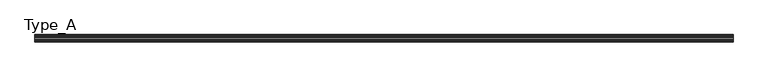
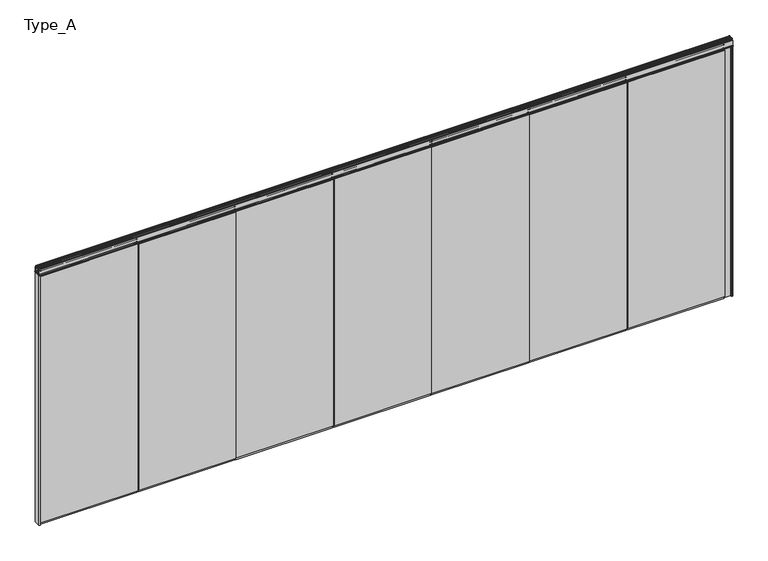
"""IFC4 building model written with IfcOpenShell, lengths in millimetres: proxy geometry, Planner Wall フラッシュパネル(NO Door) : Type_A."""

from ifc_helpers import new_model, si_unit, point, frame, frame_2d, origin, origin_with_axes, place, context, project, spatial, polyline, circle_curve, trimmed, segment, composite_curve, outline, extrude, source, transform, mapped, element, save


def type_a_feeafe0a(model_context):
    return source(origin(), model_context, "Body", "SweptSolid", [
        extrude(outline(polyline([(-625.0714286, 25.0), (-1723.5, 25.0), (-1723.5, 35.0), (-625.0714286, 35.0), (-625.0714286, 25.0)])), frame((0.0, 0.0, 25.0), z_axis=(0.0, 0.0, 1.0), x_axis=(1.0, 0.0, 0.0)), (0.0, 0.0, 1.0), 2950.0),
        extrude(outline(polyline([(-625.0714286, -35.0), (-1723.5, -35.0), (-1723.5, -25.0), (-625.0714286, -25.0), (-625.0714286, -35.0)])), frame((0.0, 0.0, 25.0), z_axis=(0.0, 0.0, 1.0), x_axis=(1.0, 0.0, 0.0)), (0.0, 0.0, 1.0), 2950.0),
        extrude(outline(polyline([(-1723.5, -25.0), (-1723.5, 25.0), (-630.5714286, 25.0), (-630.5714286, -25.0), (-1723.5, -25.0)])), origin_with_axes(), (0.0, 0.0, 1.0), 65.0),
        extrude(outline(composite_curve([segment(polyline([(23.5, 3050.1000003), (26.5, 3047.1000003), (26.5, 3032.6)]), True, "CONTINUOUS"), segment(trimmed(circle_curve(frame_2d((25.0, 3032.6)), 1.5), [point((26.5, 3032.6))], [point((25.0, 3031.1))], False, "CARTESIAN"), True, "CONTINUOUS"), segment(polyline([(25.0, 3031.1), (9.0, 3031.1), (9.0, 3019.1000003), (23.5, 3019.1000003), (26.5, 3016.1000003), (26.5, 3001.5)]), True, "CONTINUOUS"), segment(trimmed(circle_curve(frame_2d((25.0, 3001.5)), 1.5), [point((26.5, 3001.5))], [point((25.0, 3000.0))], False, "CARTESIAN"), True, "CONTINUOUS"), segment(polyline([(25.0, 3000.0), (7.5, 3000.0), (7.5, 2994.5), (25.0, 2994.5), (25.0, 2935.0), (-25.0, 2935.0), (-25.0, 2994.5), (-7.5, 2994.5), (-7.5, 3000.0), (-25.0, 3000.0)]), True, "CONTINUOUS"), segment(trimmed(circle_curve(frame_2d((-25.0, 3001.5)), 1.5), [point((-25.0, 3000.0))], [point((-26.5, 3001.5))], False, "CARTESIAN"), True, "CONTINUOUS"), segment(polyline([(-26.5, 3001.5), (-26.5, 3016.1000003), (-23.5, 3019.1000003), (-9.0, 3019.1000003), (-9.0, 3031.1), (-25.0, 3031.1)]), True, "CONTINUOUS"), segment(trimmed(circle_curve(frame_2d((-25.0, 3032.6)), 1.5), [point((-25.0, 3031.1))], [point((-26.5, 3032.6))], False, "CARTESIAN"), True, "CONTINUOUS"), segment(polyline([(-26.5, 3032.6), (-26.5, 3047.1000003), (-23.5, 3050.1000003), (23.5, 3050.1000003)]), True, "CONTINUOUS")], self_intersect=False)), frame((-1723.5, 0.0, 0.0), z_axis=(1.0, 0.0, 0.0), x_axis=(0.0, 1.0, 0.0)), (0.0, 0.0, 1.0), 1098.4285714),
        extrude(outline(polyline([(-1737.0, -25.0), (-1737.0, 25.0), (-1723.5, 25.0), (-1723.5, -25.0), (-1737.0, -25.0)])), frame((0.0, 0.0, 53.0), z_axis=(0.0, 0.0, 1.0), x_axis=(1.0, 0.0, 0.0)), (0.0, 0.0, 1.0), 2869.0),
        extrude(outline(polyline([(481.3571429, 25.0), (-617.0714286, 25.0), (-617.0714286, 35.0), (481.3571429, 35.0), (481.3571429, 25.0)])), frame((0.0, 0.0, 25.0), z_axis=(0.0, 0.0, 1.0), x_axis=(1.0, 0.0, 0.0)), (0.0, 0.0, 1.0), 2950.0),
        extrude(outline(polyline([(481.3571429, -35.0), (-617.0714286, -35.0), (-617.0714286, -25.0), (481.3571429, -25.0), (481.3571429, -35.0)])), frame((0.0, 0.0, 25.0), z_axis=(0.0, 0.0, 1.0), x_axis=(1.0, 0.0, 0.0)), (0.0, 0.0, 1.0), 2950.0),
        extrude(outline(polyline([(-617.0714286, -25.0), (-617.0714286, 25.0), (475.8571429, 25.0), (475.8571429, -25.0), (-617.0714286, -25.0)])), origin_with_axes(), (0.0, 0.0, 1.0), 65.0),
        extrude(outline(composite_curve([segment(polyline([(23.5, 3050.1000003), (26.5, 3047.1000003), (26.5, 3032.6)]), True, "CONTINUOUS"), segment(trimmed(circle_curve(frame_2d((25.0, 3032.6)), 1.5), [point((26.5, 3032.6))], [point((25.0, 3031.1))], False, "CARTESIAN"), True, "CONTINUOUS"), segment(polyline([(25.0, 3031.1), (9.0, 3031.1), (9.0, 3019.1000003), (23.5, 3019.1000003), (26.5, 3016.1000003), (26.5, 3001.5)]), True, "CONTINUOUS"), segment(trimmed(circle_curve(frame_2d((25.0, 3001.5)), 1.5), [point((26.5, 3001.5))], [point((25.0, 3000.0))], False, "CARTESIAN"), True, "CONTINUOUS"), segment(polyline([(25.0, 3000.0), (7.5, 3000.0), (7.5, 2994.5), (25.0, 2994.5), (25.0, 2935.0), (-25.0, 2935.0), (-25.0, 2994.5), (-7.5, 2994.5), (-7.5, 3000.0), (-25.0, 3000.0)]), True, "CONTINUOUS"), segment(trimmed(circle_curve(frame_2d((-25.0, 3001.5)), 1.5), [point((-25.0, 3000.0))], [point((-26.5, 3001.5))], False, "CARTESIAN"), True, "CONTINUOUS"), segment(polyline([(-26.5, 3001.5), (-26.5, 3016.1000003), (-23.5, 3019.1000003), (-9.0, 3019.1000003), (-9.0, 3031.1), (-25.0, 3031.1)]), True, "CONTINUOUS"), segment(trimmed(circle_curve(frame_2d((-25.0, 3032.6)), 1.5), [point((-25.0, 3031.1))], [point((-26.5, 3032.6))], False, "CARTESIAN"), True, "CONTINUOUS"), segment(polyline([(-26.5, 3032.6), (-26.5, 3047.1000003), (-23.5, 3050.1000003), (23.5, 3050.1000003)]), True, "CONTINUOUS")], self_intersect=False)), frame((-617.0714286, 0.0, 0.0), z_axis=(1.0, 0.0, 0.0), x_axis=(0.0, 1.0, 0.0)), (0.0, 0.0, 1.0), 1098.4285714),
        extrude(outline(polyline([(-630.5714286, -25.0), (-630.5714286, 25.0), (-617.0714286, 25.0), (-617.0714286, -25.0), (-630.5714286, -25.0)])), frame((0.0, 0.0, 53.0), z_axis=(0.0, 0.0, 1.0), x_axis=(1.0, 0.0, 0.0)), (0.0, 0.0, 1.0), 2869.0),
        extrude(outline(polyline([(1587.7857143, 25.0), (489.3571429, 25.0), (489.3571429, 35.0), (1587.7857143, 35.0), (1587.7857143, 25.0)])), frame((0.0, 0.0, 25.0), z_axis=(0.0, 0.0, 1.0), x_axis=(1.0, 0.0, 0.0)), (0.0, 0.0, 1.0), 2950.0),
        extrude(outline(polyline([(1587.7857143, -35.0), (489.3571429, -35.0), (489.3571429, -25.0), (1587.7857143, -25.0), (1587.7857143, -35.0)])), frame((0.0, 0.0, 25.0), z_axis=(0.0, 0.0, 1.0), x_axis=(1.0, 0.0, 0.0)), (0.0, 0.0, 1.0), 2950.0),
        extrude(outline(polyline([(489.3571429, -25.0), (489.3571429, 25.0), (1582.2857143, 25.0), (1582.2857143, -25.0), (489.3571429, -25.0)])), origin_with_axes(), (0.0, 0.0, 1.0), 65.0),
        extrude(outline(composite_curve([segment(polyline([(23.5, 3050.1000003), (26.5, 3047.1000003), (26.5, 3032.6)]), True, "CONTINUOUS"), segment(trimmed(circle_curve(frame_2d((25.0, 3032.6)), 1.5), [point((26.5, 3032.6))], [point((25.0, 3031.1))], False, "CARTESIAN"), True, "CONTINUOUS"), segment(polyline([(25.0, 3031.1), (9.0, 3031.1), (9.0, 3019.1000003), (23.5, 3019.1000003), (26.5, 3016.1000003), (26.5, 3001.5)]), True, "CONTINUOUS"), segment(trimmed(circle_curve(frame_2d((25.0, 3001.5)), 1.5), [point((26.5, 3001.5))], [point((25.0, 3000.0))], False, "CARTESIAN"), True, "CONTINUOUS"), segment(polyline([(25.0, 3000.0), (7.5, 3000.0), (7.5, 2994.5), (25.0, 2994.5), (25.0, 2935.0), (-25.0, 2935.0), (-25.0, 2994.5), (-7.5, 2994.5), (-7.5, 3000.0), (-25.0, 3000.0)]), True, "CONTINUOUS"), segment(trimmed(circle_curve(frame_2d((-25.0, 3001.5)), 1.5), [point((-25.0, 3000.0))], [point((-26.5, 3001.5))], False, "CARTESIAN"), True, "CONTINUOUS"), segment(polyline([(-26.5, 3001.5), (-26.5, 3016.1000003), (-23.5, 3019.1000003), (-9.0, 3019.1000003), (-9.0, 3031.1), (-25.0, 3031.1)]), True, "CONTINUOUS"), segment(trimmed(circle_curve(frame_2d((-25.0, 3032.6)), 1.5), [point((-25.0, 3031.1))], [point((-26.5, 3032.6))], False, "CARTESIAN"), True, "CONTINUOUS"), segment(polyline([(-26.5, 3032.6), (-26.5, 3047.1000003), (-23.5, 3050.1000003), (23.5, 3050.1000003)]), True, "CONTINUOUS")], self_intersect=False)), frame((489.3571429, 0.0, 0.0), z_axis=(1.0, 0.0, 0.0), x_axis=(0.0, 1.0, 0.0)), (0.0, 0.0, 1.0), 1098.4285714),
        extrude(outline(polyline([(475.8571429, -25.0), (475.8571429, 25.0), (489.3571429, 25.0), (489.3571429, -25.0), (475.8571429, -25.0)])), frame((0.0, 0.0, 53.0), z_axis=(0.0, 0.0, 1.0), x_axis=(1.0, 0.0, 0.0)), (0.0, 0.0, 1.0), 2869.0),
        extrude(outline(polyline([(2694.2142857, 25.0), (1595.7857143, 25.0), (1595.7857143, 35.0), (2694.2142857, 35.0), (2694.2142857, 25.0)])), frame((0.0, 0.0, 25.0), z_axis=(0.0, 0.0, 1.0), x_axis=(1.0, 0.0, 0.0)), (0.0, 0.0, 1.0), 2950.0),
        extrude(outline(polyline([(2694.2142857, -35.0), (1595.7857143, -35.0), (1595.7857143, -25.0), (2694.2142857, -25.0), (2694.2142857, -35.0)])), frame((0.0, 0.0, 25.0), z_axis=(0.0, 0.0, 1.0), x_axis=(1.0, 0.0, 0.0)), (0.0, 0.0, 1.0), 2950.0),
        extrude(outline(polyline([(1595.7857143, -25.0), (1595.7857143, 25.0), (2688.7142857, 25.0), (2688.7142857, -25.0), (1595.7857143, -25.0)])), origin_with_axes(), (0.0, 0.0, 1.0), 65.0),
        extrude(outline(composite_curve([segment(polyline([(23.5, 3050.1000003), (26.5, 3047.1000003), (26.5, 3032.6)]), True, "CONTINUOUS"), segment(trimmed(circle_curve(frame_2d((25.0, 3032.6)), 1.5), [point((26.5, 3032.6))], [point((25.0, 3031.1))], False, "CARTESIAN"), True, "CONTINUOUS"), segment(polyline([(25.0, 3031.1), (9.0, 3031.1), (9.0, 3019.1000003), (23.5, 3019.1000003), (26.5, 3016.1000003), (26.5, 3001.5)]), True, "CONTINUOUS"), segment(trimmed(circle_curve(frame_2d((25.0, 3001.5)), 1.5), [point((26.5, 3001.5))], [point((25.0, 3000.0))], False, "CARTESIAN"), True, "CONTINUOUS"), segment(polyline([(25.0, 3000.0), (7.5, 3000.0), (7.5, 2994.5), (25.0, 2994.5), (25.0, 2935.0), (-25.0, 2935.0), (-25.0, 2994.5), (-7.5, 2994.5), (-7.5, 3000.0), (-25.0, 3000.0)]), True, "CONTINUOUS"), segment(trimmed(circle_curve(frame_2d((-25.0, 3001.5)), 1.5), [point((-25.0, 3000.0))], [point((-26.5, 3001.5))], False, "CARTESIAN"), True, "CONTINUOUS"), segment(polyline([(-26.5, 3001.5), (-26.5, 3016.1000003), (-23.5, 3019.1000003), (-9.0, 3019.1000003), (-9.0, 3031.1), (-25.0, 3031.1)]), True, "CONTINUOUS"), segment(trimmed(circle_curve(frame_2d((-25.0, 3032.6)), 1.5), [point((-25.0, 3031.1))], [point((-26.5, 3032.6))], False, "CARTESIAN"), True, "CONTINUOUS"), segment(polyline([(-26.5, 3032.6), (-26.5, 3047.1000003), (-23.5, 3050.1000003), (23.5, 3050.1000003)]), True, "CONTINUOUS")], self_intersect=False)), frame((1595.7857143, 0.0, 0.0), z_axis=(1.0, 0.0, 0.0), x_axis=(0.0, 1.0, 0.0)), (0.0, 0.0, 1.0), 1098.4285714),
        extrude(outline(polyline([(1582.2857143, -25.0), (1582.2857143, 25.0), (1595.7857143, 25.0), (1595.7857143, -25.0), (1582.2857143, -25.0)])), frame((0.0, 0.0, 53.0), z_axis=(0.0, 0.0, 1.0), x_axis=(1.0, 0.0, 0.0)), (0.0, 0.0, 1.0), 2869.0),
        extrude(outline(polyline([(3800.6428571, 25.0), (2702.2142857, 25.0), (2702.2142857, 35.0), (3800.6428571, 35.0), (3800.6428571, 25.0)])), frame((0.0, 0.0, 25.0), z_axis=(0.0, 0.0, 1.0), x_axis=(1.0, 0.0, 0.0)), (0.0, 0.0, 1.0), 2950.0),
        extrude(outline(polyline([(3800.6428571, -35.0), (2702.2142857, -35.0), (2702.2142857, -25.0), (3800.6428571, -25.0), (3800.6428571, -35.0)])), frame((0.0, 0.0, 25.0), z_axis=(0.0, 0.0, 1.0), x_axis=(1.0, 0.0, 0.0)), (0.0, 0.0, 1.0), 2950.0),
        extrude(outline(polyline([(2702.2142857, -25.0), (2702.2142857, 25.0), (3795.1428571, 25.0), (3795.1428571, -25.0), (2702.2142857, -25.0)])), origin_with_axes(), (0.0, 0.0, 1.0), 65.0),
        extrude(outline(composite_curve([segment(polyline([(23.5, 3050.1000003), (26.5, 3047.1000003), (26.5, 3032.6)]), True, "CONTINUOUS"), segment(trimmed(circle_curve(frame_2d((25.0, 3032.6)), 1.5), [point((26.5, 3032.6))], [point((25.0, 3031.1))], False, "CARTESIAN"), True, "CONTINUOUS"), segment(polyline([(25.0, 3031.1), (9.0, 3031.1), (9.0, 3019.1000003), (23.5, 3019.1000003), (26.5, 3016.1000003), (26.5, 3001.5)]), True, "CONTINUOUS"), segment(trimmed(circle_curve(frame_2d((25.0, 3001.5)), 1.5), [point((26.5, 3001.5))], [point((25.0, 3000.0))], False, "CARTESIAN"), True, "CONTINUOUS"), segment(polyline([(25.0, 3000.0), (7.5, 3000.0), (7.5, 2994.5), (25.0, 2994.5), (25.0, 2935.0), (-25.0, 2935.0), (-25.0, 2994.5), (-7.5, 2994.5), (-7.5, 3000.0), (-25.0, 3000.0)]), True, "CONTINUOUS"), segment(trimmed(circle_curve(frame_2d((-25.0, 3001.5)), 1.5), [point((-25.0, 3000.0))], [point((-26.5, 3001.5))], False, "CARTESIAN"), True, "CONTINUOUS"), segment(polyline([(-26.5, 3001.5), (-26.5, 3016.1000003), (-23.5, 3019.1000003), (-9.0, 3019.1000003), (-9.0, 3031.1), (-25.0, 3031.1)]), True, "CONTINUOUS"), segment(trimmed(circle_curve(frame_2d((-25.0, 3032.6)), 1.5), [point((-25.0, 3031.1))], [point((-26.5, 3032.6))], False, "CARTESIAN"), True, "CONTINUOUS"), segment(polyline([(-26.5, 3032.6), (-26.5, 3047.1000003), (-23.5, 3050.1000003), (23.5, 3050.1000003)]), True, "CONTINUOUS")], self_intersect=False)), frame((2702.2142857, 0.0, 0.0), z_axis=(1.0, 0.0, 0.0), x_axis=(0.0, 1.0, 0.0)), (0.0, 0.0, 1.0), 1098.4285714),
        extrude(outline(polyline([(2688.7142857, -25.0), (2688.7142857, 25.0), (2702.2142857, 25.0), (2702.2142857, -25.0), (2688.7142857, -25.0)])), frame((0.0, 0.0, 53.0), z_axis=(0.0, 0.0, 1.0), x_axis=(1.0, 0.0, 0.0)), (0.0, 0.0, 1.0), 2869.0),
        extrude(outline(polyline([(4907.0714286, 25.0), (3808.6428571, 25.0), (3808.6428571, 35.0), (4907.0714286, 35.0), (4907.0714286, 25.0)])), frame((0.0, 0.0, 25.0), z_axis=(0.0, 0.0, 1.0), x_axis=(1.0, 0.0, 0.0)), (0.0, 0.0, 1.0), 2950.0),
        extrude(outline(polyline([(4907.0714286, -35.0), (3808.6428571, -35.0), (3808.6428571, -25.0), (4907.0714286, -25.0), (4907.0714286, -35.0)])), frame((0.0, 0.0, 25.0), z_axis=(0.0, 0.0, 1.0), x_axis=(1.0, 0.0, 0.0)), (0.0, 0.0, 1.0), 2950.0),
        extrude(outline(polyline([(3808.6428571, -25.0), (3808.6428571, 25.0), (4901.5714286, 25.0), (4901.5714286, -25.0), (3808.6428571, -25.0)])), origin_with_axes(), (0.0, 0.0, 1.0), 65.0),
        extrude(outline(composite_curve([segment(polyline([(23.5, 3050.1000003), (26.5, 3047.1000003), (26.5, 3032.6)]), True, "CONTINUOUS"), segment(trimmed(circle_curve(frame_2d((25.0, 3032.6)), 1.5), [point((26.5, 3032.6))], [point((25.0, 3031.1))], False, "CARTESIAN"), True, "CONTINUOUS"), segment(polyline([(25.0, 3031.1), (9.0, 3031.1), (9.0, 3019.1000003), (23.5, 3019.1000003), (26.5, 3016.1000003), (26.5, 3001.5)]), True, "CONTINUOUS"), segment(trimmed(circle_curve(frame_2d((25.0, 3001.5)), 1.5), [point((26.5, 3001.5))], [point((25.0, 3000.0))], False, "CARTESIAN"), True, "CONTINUOUS"), segment(polyline([(25.0, 3000.0), (7.5, 3000.0), (7.5, 2994.5), (25.0, 2994.5), (25.0, 2935.0), (-25.0, 2935.0), (-25.0, 2994.5), (-7.5, 2994.5), (-7.5, 3000.0), (-25.0, 3000.0)]), True, "CONTINUOUS"), segment(trimmed(circle_curve(frame_2d((-25.0, 3001.5)), 1.5), [point((-25.0, 3000.0))], [point((-26.5, 3001.5))], False, "CARTESIAN"), True, "CONTINUOUS"), segment(polyline([(-26.5, 3001.5), (-26.5, 3016.1000003), (-23.5, 3019.1000003), (-9.0, 3019.1000003), (-9.0, 3031.1), (-25.0, 3031.1)]), True, "CONTINUOUS"), segment(trimmed(circle_curve(frame_2d((-25.0, 3032.6)), 1.5), [point((-25.0, 3031.1))], [point((-26.5, 3032.6))], False, "CARTESIAN"), True, "CONTINUOUS"), segment(polyline([(-26.5, 3032.6), (-26.5, 3047.1000003), (-23.5, 3050.1000003), (23.5, 3050.1000003)]), True, "CONTINUOUS")], self_intersect=False)), frame((3808.6428571, 0.0, 0.0), z_axis=(1.0, 0.0, 0.0), x_axis=(0.0, 1.0, 0.0)), (0.0, 0.0, 1.0), 1098.4285714),
        extrude(outline(polyline([(3795.1428571, -25.0), (3795.1428571, 25.0), (3808.6428571, 25.0), (3808.6428571, -25.0), (3795.1428571, -25.0)])), frame((0.0, 0.0, 53.0), z_axis=(0.0, 0.0, 1.0), x_axis=(1.0, 0.0, 0.0)), (0.0, 0.0, 1.0), 2869.0),
        extrude(outline(polyline([(4915.0714286, -25.0), (4915.0714286, 25.0), (6008.0, 25.0), (6008.0, -25.0), (4915.0714286, -25.0)])), origin_with_axes(), (0.0, 0.0, 1.0), 65.0),
        extrude(outline(polyline([(6008.0, -19.5), (6008.0, 19.5), (6090.5, 19.5), (6090.5, 25.0), (6097.0, 25.0), (6097.0, -25.0), (6090.5, -25.0), (6090.5, -19.5), (6008.0, -19.5)])), origin_with_axes(), (0.0, 0.0, 1.0), 2994.0),
        extrude(outline(composite_curve([segment(polyline([(23.5, 3050.1000003), (26.5, 3047.1000003), (26.5, 3032.6)]), True, "CONTINUOUS"), segment(trimmed(circle_curve(frame_2d((25.0, 3032.6)), 1.5), [point((26.5, 3032.6))], [point((25.0, 3031.1))], False, "CARTESIAN"), True, "CONTINUOUS"), segment(polyline([(25.0, 3031.1), (9.0, 3031.1), (9.0, 3019.1000003), (23.5, 3019.1000003), (26.5, 3016.1000003), (26.5, 3001.5)]), True, "CONTINUOUS"), segment(trimmed(circle_curve(frame_2d((25.0, 3001.5)), 1.5), [point((26.5, 3001.5))], [point((25.0, 3000.0))], False, "CARTESIAN"), True, "CONTINUOUS"), segment(polyline([(25.0, 3000.0), (7.5, 3000.0), (7.5, 2994.5), (25.0, 2994.5), (25.0, 2935.0), (-25.0, 2935.0), (-25.0, 2994.5), (-7.5, 2994.5), (-7.5, 3000.0), (-25.0, 3000.0)]), True, "CONTINUOUS"), segment(trimmed(circle_curve(frame_2d((-25.0, 3001.5)), 1.5), [point((-25.0, 3000.0))], [point((-26.5, 3001.5))], False, "CARTESIAN"), True, "CONTINUOUS"), segment(polyline([(-26.5, 3001.5), (-26.5, 3016.1000003), (-23.5, 3019.1000003), (-9.0, 3019.1000003), (-9.0, 3031.1), (-25.0, 3031.1)]), True, "CONTINUOUS"), segment(trimmed(circle_curve(frame_2d((-25.0, 3032.6)), 1.5), [point((-25.0, 3031.1))], [point((-26.5, 3032.6))], False, "CARTESIAN"), True, "CONTINUOUS"), segment(polyline([(-26.5, 3032.6), (-26.5, 3047.1000003), (-23.5, 3050.1000003), (23.5, 3050.1000003)]), True, "CONTINUOUS")], self_intersect=False)), frame((4915.0714286, 0.0, 0.0), z_axis=(1.0, 0.0, 0.0), x_axis=(0.0, 1.0, 0.0)), (0.0, 0.0, 1.0), 1098.4285714),
        extrude(outline(polyline([(6013.5, 24.9), (4915.0714286, 24.9), (4915.0714286, 35.0), (6013.5, 35.0), (6013.5, 24.9)])), frame((0.0, 0.0, 25.0), z_axis=(0.0, 0.0, 1.0), x_axis=(1.0, 0.0, 0.0)), (0.0, 0.0, 1.0), 2950.0),
        extrude(outline(polyline([(6013.5, -35.0), (4915.0714286, -35.0), (4915.0714286, -24.9), (6013.5, -24.9), (6013.5, -35.0)])), frame((0.0, 0.0, 25.0), z_axis=(0.0, 0.0, 1.0), x_axis=(1.0, 0.0, 0.0)), (0.0, 0.0, 1.0), 2950.0),
        extrude(outline(polyline([(4901.5714286, -25.0), (4901.5714286, 25.0), (4915.0714286, 25.0), (4915.0714286, -25.0), (4901.5714286, -25.0)])), frame((0.0, 0.0, 78.0), z_axis=(0.0, 0.0, 1.0), x_axis=(1.0, 0.0, 0.0)), (0.0, 0.0, 1.0), 2897.0),
        extrude(outline(polyline([(-1745.0, -35.0), (-1745.0, 35.0), (-1731.5, 35.0), (-1731.5, 25.0), (-1737.0, 25.0), (-1737.0, -25.0), (-1731.5, -25.0), (-1731.5, -35.0), (-1745.0, -35.0)])), origin_with_axes(), (0.0, 0.0, 1.0), 2994.0),
        extrude(outline(composite_curve([segment(trimmed(circle_curve(frame_2d((-26.5, 3056.0)), 5.0), [point((-31.5, 3056.0))], [point((-26.1165175, 3060.9852724))], False, "CARTESIAN"), True, "CONTINUOUS"), segment(polyline([(-26.1165175, 3060.9852724), (-24.5, 3060.9852724), (-24.5, 3075.0)]), True, "CONTINUOUS"), segment(trimmed(circle_curve(frame_2d((-21.5, 3075.0)), 3.0), [point((-24.5, 3075.0))], [point((-21.5, 3078.0))], False, "CARTESIAN"), True, "CONTINUOUS"), segment(polyline([(-21.5, 3078.0), (-14.0, 3078.0)]), True, "CONTINUOUS"), segment(trimmed(circle_curve(frame_2d((-14.0, 3076.5)), 1.5), [point((-14.0, 3078.0))], [point((-12.5, 3076.5))], False, "CARTESIAN"), True, "CONTINUOUS"), segment(polyline([(-12.5, 3076.5), (-12.5, 3074.5)]), True, "CONTINUOUS"), segment(trimmed(circle_curve(frame_2d((-13.0, 3074.5)), 0.5), [point((-12.5, 3074.5))], [point((-13.0, 3074.0))], False, "CARTESIAN"), True, "CONTINUOUS"), segment(polyline([(-13.0, 3074.0), (-19.0, 3074.0)]), True, "CONTINUOUS"), segment(trimmed(circle_curve(frame_2d((-19.0, 3072.5)), 1.5), [point((-19.0, 3074.0))], [point((-20.5, 3072.5))], True, "CARTESIAN"), True, "CONTINUOUS"), segment(polyline([(-20.5, 3072.5), (-20.5, 3062.5)]), True, "CONTINUOUS"), segment(trimmed(circle_curve(frame_2d((-19.0, 3062.5)), 1.5), [point((-20.5, 3062.5))], [point((-19.0, 3061.0))], True, "CARTESIAN"), True, "CONTINUOUS"), segment(polyline([(-19.0, 3061.0), (19.0, 3061.0)]), True, "CONTINUOUS"), segment(trimmed(circle_curve(frame_2d((19.0, 3062.5)), 1.5), [point((19.0, 3061.0))], [point((20.5, 3062.5))], True, "CARTESIAN"), True, "CONTINUOUS"), segment(polyline([(20.5, 3062.5), (20.5, 3072.5)]), True, "CONTINUOUS"), segment(trimmed(circle_curve(frame_2d((19.0, 3072.5)), 1.5), [point((20.5, 3072.5))], [point((19.0, 3074.0))], True, "CARTESIAN"), True, "CONTINUOUS"), segment(polyline([(19.0, 3074.0), (13.0, 3074.0)]), True, "CONTINUOUS"), segment(trimmed(circle_curve(frame_2d((13.0, 3074.5)), 0.5), [point((13.0, 3074.0))], [point((12.5, 3074.5))], False, "CARTESIAN"), True, "CONTINUOUS"), segment(polyline([(12.5, 3074.5), (12.5, 3076.5)]), True, "CONTINUOUS"), segment(trimmed(circle_curve(frame_2d((14.0, 3076.5)), 1.5), [point((12.5, 3076.5))], [point((14.0, 3078.0))], False, "CARTESIAN"), True, "CONTINUOUS"), segment(polyline([(14.0, 3078.0), (21.5, 3078.0)]), True, "CONTINUOUS"), segment(trimmed(circle_curve(frame_2d((21.5, 3075.0)), 3.0), [point((21.5, 3078.0))], [point((24.5, 3075.0))], False, "CARTESIAN"), True, "CONTINUOUS"), segment(polyline([(24.5, 3075.0), (24.5, 3060.9852724), (26.1165175, 3060.9852724)]), True, "CONTINUOUS"), segment(trimmed(circle_curve(frame_2d((26.5, 3056.0)), 5.0), [point((26.1165175, 3060.9852724))], [point((31.5, 3056.0))], False, "CARTESIAN"), True, "CONTINUOUS"), segment(polyline([(31.5, 3056.0), (31.5, 3000.0), (42.5, 3000.0), (42.5, 2994.0), (11.0, 2994.0), (11.0, 3000.0), (26.9, 3000.0), (26.9, 3007.0786797), (27.9, 3009.3213203), (27.9, 3052.0)]), True, "CONTINUOUS"), segment(trimmed(circle_curve(frame_2d((22.9, 3052.0)), 5.0), [point((27.9, 3052.0))], [point((22.9, 3057.0))], True, "CARTESIAN"), True, "CONTINUOUS"), segment(polyline([(22.9, 3057.0), (-22.9, 3057.0)]), True, "CONTINUOUS"), segment(trimmed(circle_curve(frame_2d((-22.9, 3052.0)), 5.0), [point((-22.9, 3057.0))], [point((-27.9, 3052.0))], True, "CARTESIAN"), True, "CONTINUOUS"), segment(polyline([(-27.9, 3052.0), (-27.9, 3009.3213203), (-26.9, 3007.0786797), (-26.9, 3000.0), (-11.0, 3000.0), (-11.0, 2994.0), (-42.5, 2994.0), (-42.5, 3000.0), (-31.5, 3000.0), (-31.5, 3056.0)]), True, "CONTINUOUS")], self_intersect=False)), frame((-1745.0, 0.0, 0.0), z_axis=(1.0, 0.0, 0.0), x_axis=(0.0, 1.0, 0.0)), (0.0, 0.0, 1.0), 7850.0),
        extrude(outline(polyline([(6105.0, -35.0), (6091.5, -35.0), (6091.5, -25.0), (6097.0, -25.0), (6097.0, 25.0), (6091.5, 25.0), (6091.5, 35.0), (6105.0, 35.0), (6105.0, -35.0)])), origin_with_axes(), (0.0, 0.0, 1.0), 2994.0),
    ])


if __name__ == "__main__":
    model = new_model("IFC4")
    model_context = context("Model", 3, world=origin())
    ifc_project = project(units=[si_unit("LENGTHUNIT", "METRE", prefix="MILLI")], contexts=[model_context])
    site = spatial("IfcSite", under=ifc_project)
    building = spatial("IfcBuilding", under=site)
    placement = place(None, origin())
    type_a_shape = type_a_feeafe0a(model_context)
    element("IfcBuildingElementProxy", 1, Name="Planner Wall フラッシュパネル(NO Door) : Type_A", ObjectType="Planner Wall フラッシュパネル(NO Door) : Type_A", at=placement, inside=building, context=model_context, shape_type="MappedRepresentation", body=[
        mapped(type_a_shape, transform((0.0, 0.0, 0.0), x_axis=(1.0, 0.0, 0.0), y_axis=(0.0, 1.0, 0.0), z_axis=(0.0, 0.0, 1.0))),
    ])
    save(model, "model.ifc")
